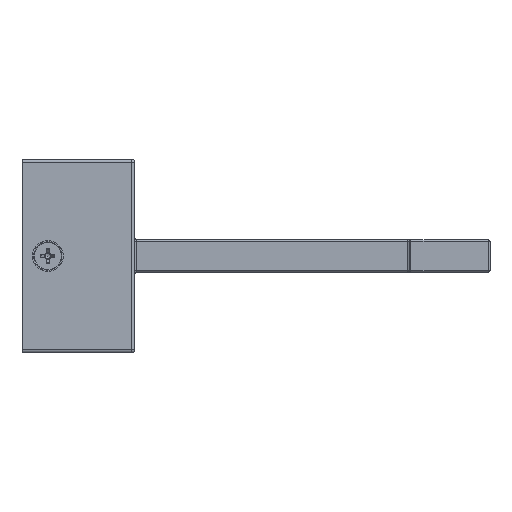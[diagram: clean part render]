
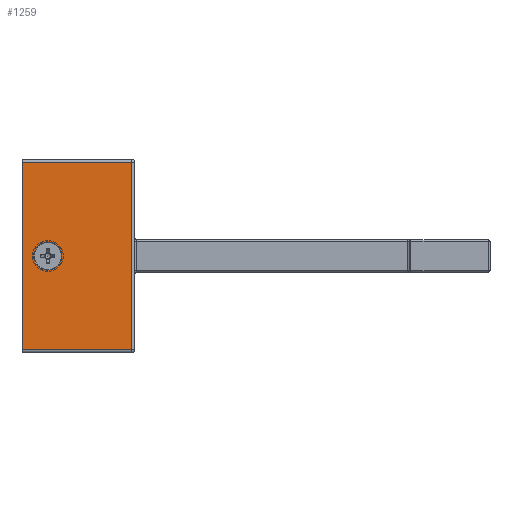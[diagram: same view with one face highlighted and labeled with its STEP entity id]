
A CAD part, front view. The second image highlights one B-rep face of the part: STEP entity #1259.
In plain terms, the highlighted planar face has unit normal (0, -1, 0).
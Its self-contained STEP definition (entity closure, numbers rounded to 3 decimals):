
#3 = VECTOR ( 'NONE', #1575, 1000. ) ;
#23 = ORIENTED_EDGE ( 'NONE', *, *, #2142, .T. ) ;
#35 = EDGE_CURVE ( 'NONE', #333, #333, #950, .T. ) ;
#306 = DIRECTION ( 'NONE',  ( 0., 0., 1. ) ) ;
#333 = VERTEX_POINT ( 'NONE', #3213 ) ;
#368 = LINE ( 'NONE', #895, #1249 ) ;
#395 = ORIENTED_EDGE ( 'NONE', *, *, #3128, .T. ) ;
#548 = CARTESIAN_POINT ( 'NONE',  ( 8., -60., 0. ) ) ;
#565 = PLANE ( 'NONE',  #3654 ) ;
#576 = CARTESIAN_POINT ( 'NONE',  ( 35., -60., 29. ) ) ;
#577 = DIRECTION ( 'NONE',  ( 0., 1., 0. ) ) ;
#858 = VERTEX_POINT ( 'NONE', #1667 ) ;
#895 = CARTESIAN_POINT ( 'NONE',  ( 35., -60., -29. ) ) ;
#934 = ORIENTED_EDGE ( 'NONE', *, *, #3377, .T. ) ;
#950 = CIRCLE ( 'NONE', #1900, 4.375 ) ;
#1079 = CARTESIAN_POINT ( 'NONE',  ( 0., -60., -29. ) ) ;
#1101 = VERTEX_POINT ( 'NONE', #2421 ) ;
#1140 = DIRECTION ( 'NONE',  ( 0., 1., 0. ) ) ;
#1249 = VECTOR ( 'NONE', #1489, 1000. ) ;
#1259 = ADVANCED_FACE ( 'NONE', ( #1922, #3095 ), #565, .F. ) ;
#1391 = VECTOR ( 'NONE', #2802, 1000. ) ;
#1487 = VERTEX_POINT ( 'NONE', #2766 ) ;
#1489 = DIRECTION ( 'NONE',  ( 1., 0., 0. ) ) ;
#1575 = DIRECTION ( 'NONE',  ( 0., 0., 1. ) ) ;
#1624 = CARTESIAN_POINT ( 'NONE',  ( 35., -60., -30. ) ) ;
#1659 = LINE ( 'NONE', #576, #1391 ) ;
#1667 = CARTESIAN_POINT ( 'NONE',  ( 34., -60., -29. ) ) ;
#1869 = LINE ( 'NONE', #3320, #3 ) ;
#1900 = AXIS2_PLACEMENT_3D ( 'NONE', #548, #577, #306 ) ;
#1922 = FACE_BOUND ( 'NONE', #3027, .T. ) ;
#1923 = VERTEX_POINT ( 'NONE', #1079 ) ;
#2142 = EDGE_CURVE ( 'NONE', #1101, #1923, #3138, .T. ) ;
#2165 = EDGE_LOOP ( 'NONE', ( #23, #2181, #934, #395 ) ) ;
#2181 = ORIENTED_EDGE ( 'NONE', *, *, #2247, .T. ) ;
#2247 = EDGE_CURVE ( 'NONE', #1923, #858, #368, .T. ) ;
#2322 = DIRECTION ( 'NONE',  ( 0., 0., -1. ) ) ;
#2369 = VECTOR ( 'NONE', #2322, 1000. ) ;
#2421 = CARTESIAN_POINT ( 'NONE',  ( 0., -60., 29. ) ) ;
#2766 = CARTESIAN_POINT ( 'NONE',  ( 34., -60., 29. ) ) ;
#2802 = DIRECTION ( 'NONE',  ( -1., 0., 0. ) ) ;
#2845 = CARTESIAN_POINT ( 'NONE',  ( 0., -60., -30. ) ) ;
#3027 = EDGE_LOOP ( 'NONE', ( #3324 ) ) ;
#3049 = DIRECTION ( 'NONE',  ( 0., 0., 1. ) ) ;
#3095 = FACE_OUTER_BOUND ( 'NONE', #2165, .T. ) ;
#3128 = EDGE_CURVE ( 'NONE', #1487, #1101, #1659, .T. ) ;
#3138 = LINE ( 'NONE', #2845, #2369 ) ;
#3213 = CARTESIAN_POINT ( 'NONE',  ( 8., -60., 4.375 ) ) ;
#3320 = CARTESIAN_POINT ( 'NONE',  ( 34., -60., -30. ) ) ;
#3324 = ORIENTED_EDGE ( 'NONE', *, *, #35, .T. ) ;
#3377 = EDGE_CURVE ( 'NONE', #858, #1487, #1869, .T. ) ;
#3654 = AXIS2_PLACEMENT_3D ( 'NONE', #1624, #1140, #3049 ) ;
